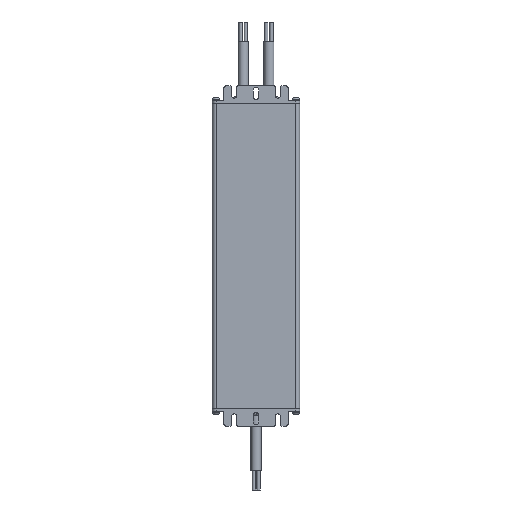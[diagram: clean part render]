
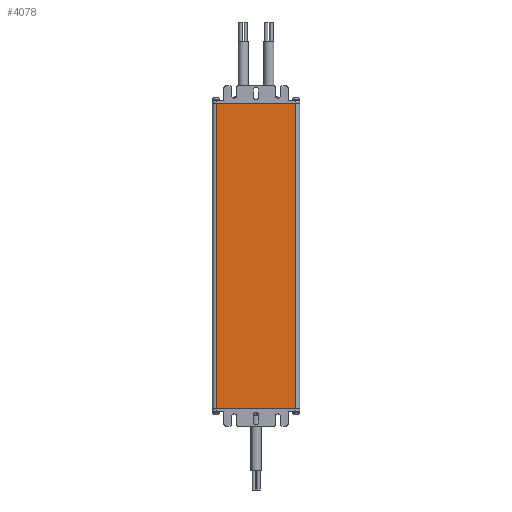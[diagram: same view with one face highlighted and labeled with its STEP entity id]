
A CAD part, front view. The second image highlights one B-rep face of the part: STEP entity #4078.
In plain terms, the highlighted planar face has unit normal (0, -1, 0).
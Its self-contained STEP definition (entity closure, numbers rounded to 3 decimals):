
#394=DIRECTION('',(-1.,0.,0.));
#395=VECTOR('',#394,62.);
#396=CARTESIAN_POINT('',(31.,-19.75,0.));
#397=LINE('',#396,#395);
#1014=DIRECTION('',(0.,0.,-1.));
#1015=VECTOR('',#1014,238.);
#1016=CARTESIAN_POINT('',(31.,-19.75,238.));
#1017=LINE('',#1016,#1015);
#1018=DIRECTION('',(0.,0.,-1.));
#1019=VECTOR('',#1018,238.);
#1020=CARTESIAN_POINT('',(-31.,-19.75,238.));
#1021=LINE('',#1020,#1019);
#1622=DIRECTION('',(-1.,0.,0.));
#1623=VECTOR('',#1622,62.);
#1624=CARTESIAN_POINT('',(31.,-19.75,238.));
#1625=LINE('',#1624,#1623);
#2326=CARTESIAN_POINT('',(31.,-19.75,0.));
#2327=VERTEX_POINT('',#2326);
#2328=CARTESIAN_POINT('',(-31.,-19.75,0.));
#2329=VERTEX_POINT('',#2328);
#2662=CARTESIAN_POINT('',(31.,-19.75,238.));
#2663=VERTEX_POINT('',#2662);
#2664=CARTESIAN_POINT('',(-31.,-19.75,238.));
#2665=VERTEX_POINT('',#2664);
#4065=CARTESIAN_POINT('',(31.,-19.75,238.));
#4066=DIRECTION('',(0.,1.,0.));
#4067=DIRECTION('',(-1.,0.,0.));
#4068=AXIS2_PLACEMENT_3D('',#4065,#4066,#4067);
#4069=PLANE('',#4068);
#4070=ORIENTED_EDGE('',*,*,#3051,.T.);
#4072=ORIENTED_EDGE('',*,*,#4071,.F.);
#4074=ORIENTED_EDGE('',*,*,#4073,.F.);
#4075=ORIENTED_EDGE('',*,*,#4057,.T.);
#4076=EDGE_LOOP('',(#4070,#4072,#4074,#4075));
#4077=FACE_OUTER_BOUND('',#4076,.F.);
#3051=EDGE_CURVE('',#2327,#2329,#397,.T.);
#4057=EDGE_CURVE('',#2663,#2327,#1017,.T.);
#4071=EDGE_CURVE('',#2665,#2329,#1021,.T.);
#4073=EDGE_CURVE('',#2663,#2665,#1625,.T.);
#4078=ADVANCED_FACE('',(#4077),#4069,.F.);
